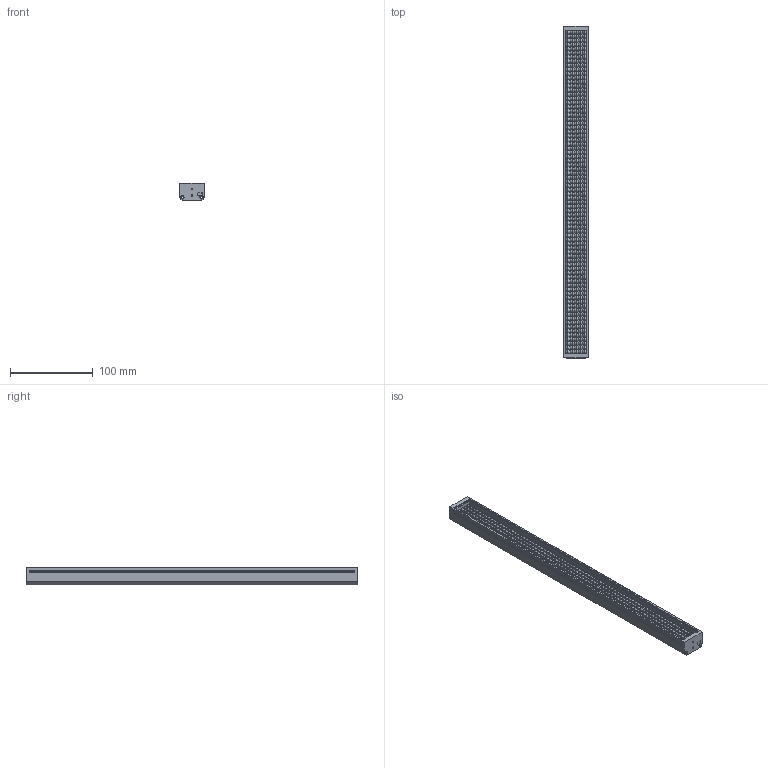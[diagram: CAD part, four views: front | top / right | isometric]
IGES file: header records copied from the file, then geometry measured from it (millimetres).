
Start section: SolidWorks IGES file using analytic representation for surfaces
Global section: file name: C:\Users\Administrator\Desktop\20200117165907722232.IGS; native system: SolidWorks 2019; preprocessor: SolidWorks 2019; author: Administrator; date: 200227.173818; units: millimetre
Bounding box: 31 x 400 x 21 mm (x, y, z)
Surface area: 103840.6 mm2 (no closed solid volume)
Topology: 0 solids, 0 shells, 959 faces, 10741 edges, 9961 vertices
Faces by surface type: bspline 920, revolution 39
